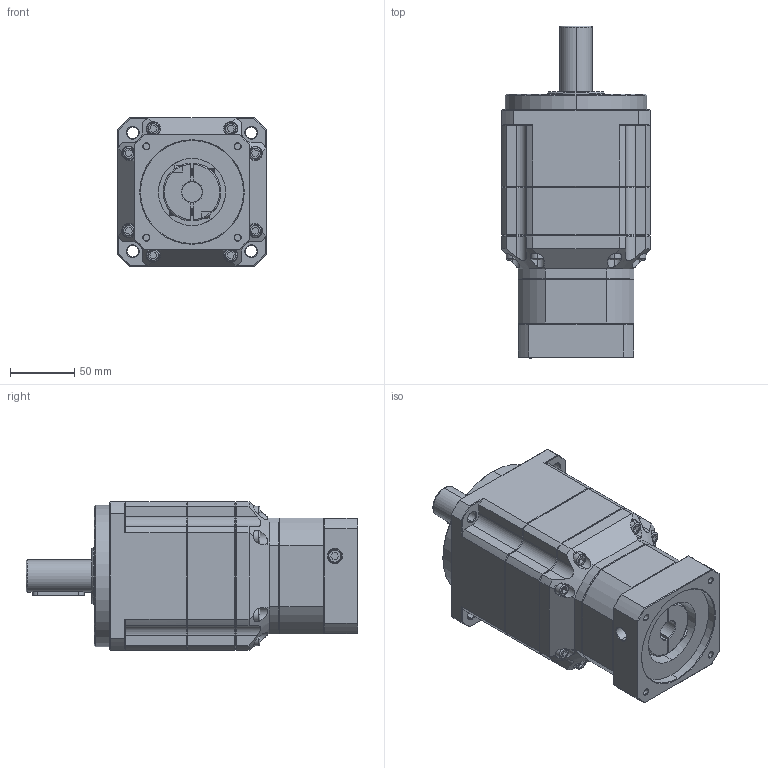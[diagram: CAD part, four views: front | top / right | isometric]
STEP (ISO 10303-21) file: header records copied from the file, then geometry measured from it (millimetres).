
FILE_DESCRIPTION (( 'STEP AP214' ), '1' );
FILE_NAME ('ZPB115-D25-L3-P1-16-80-100-M6.step', '2024-06-12T09:53:50', ( 'Windows 蚚誧' ), ( 'Organization' ), 'SwSTEP 2.0', 'SolidWorks 2016', '' );
FILE_SCHEMA (( 'AUTOMOTIVE_DESIGN' ));
Length unit declared in the file: millimetre
Products named in the file (1): ZPB115-D25-L3-P1-16-80-100-M6
Bounding box: 115 x 257.5 x 115 mm (x, y, z)
Surface area: 136902.6 mm2 (no closed solid volume)
Topology: 0 solids, 3 shells, 1827 faces, 4872 edges, 3149 vertices
Faces by surface type: plane 1055, bspline 399, cylinder 201, cone 172
Full cylindrical faces by diameter (mm): 10.2 x1
Entity records: 99632 total; most frequent: CARTESIAN_POINT 50077, ORIENTED_EDGE 9722, DIRECTION 7237, EDGE_CURVE 4870, LINE 3245, VECTOR 3245, VERTEX_POINT 3148, AXIS2_PLACEMENT_3D 1996
